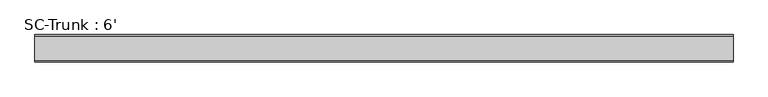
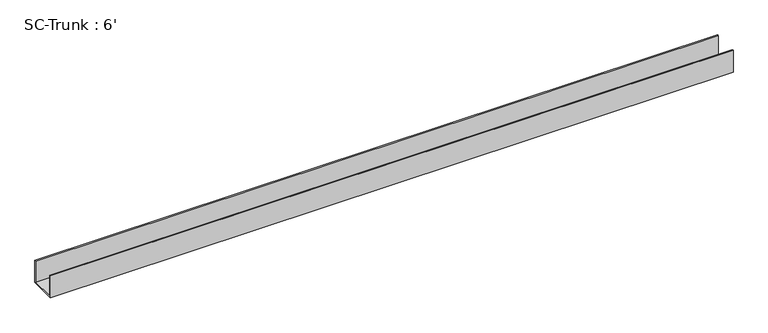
"""IFC4 building model written with IfcOpenShell, lengths in millimetres: proxy geometry, SC-Trunk : 6'."""

from ifc_helpers import new_model, si_unit, frame, origin, place, context, project, spatial, polyline, outline, extrude, source, transform, mapped, element, save


def sc_trunk_6_1de17b20(model_context):
    return source(origin(), model_context, "Body", "SweptSolid", [
        extrude(outline(polyline([(29.845, 57.15), (33.02, 57.15), (33.02, 0.0), (-33.02, 0.0), (-33.02, 57.15), (-29.845, 57.15), (-29.845, 3.175), (29.845, 3.175), (29.845, 57.15)])), frame((-838.2, 0.0, 0.0), z_axis=(1.0, 0.0, 0.0), x_axis=(0.0, 1.0, 0.0)), (0.0, 0.0, 1.0), 1676.4),
    ])


if __name__ == "__main__":
    model = new_model("IFC4")
    model_context = context("Model", 3, world=origin())
    ifc_project = project(units=[si_unit("LENGTHUNIT", "METRE", prefix="MILLI")], contexts=[model_context])
    site = spatial("IfcSite", under=ifc_project)
    building = spatial("IfcBuilding", under=site)
    placement = place(None, origin())
    sc_trunk_6_shape = sc_trunk_6_1de17b20(model_context)
    element("IfcBuildingElementProxy", 1, Name="SC-Trunk : 6'", ObjectType="SC-Trunk : 6'", at=placement, inside=building, context=model_context, shape_type="MappedRepresentation", body=[
        mapped(sc_trunk_6_shape, transform((0.0, 0.0, 0.0), x_axis=(1.0, 0.0, 0.0), y_axis=(0.0, 1.0, 0.0), z_axis=(0.0, 0.0, 1.0))),
    ])
    save(model, "model.ifc")
